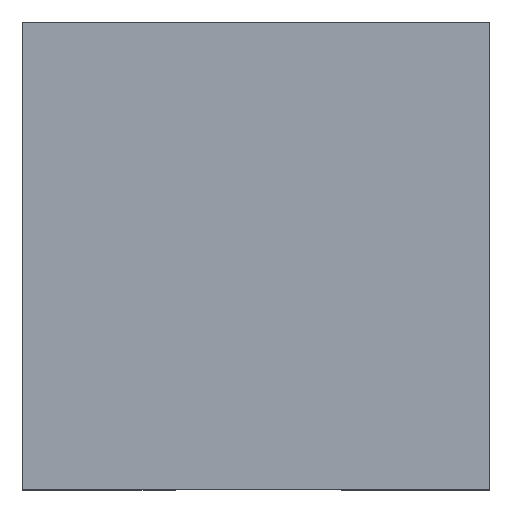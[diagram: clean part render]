
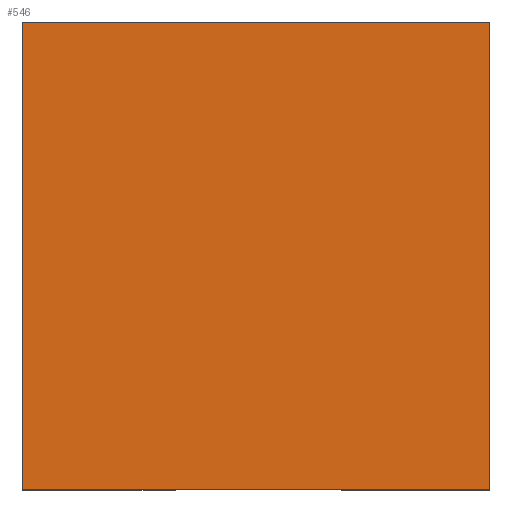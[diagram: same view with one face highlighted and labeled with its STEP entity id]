
A CAD part, top view. The second image highlights one B-rep face of the part: STEP entity #546.
In plain terms, the highlighted planar face has unit normal (0, 0, 1).
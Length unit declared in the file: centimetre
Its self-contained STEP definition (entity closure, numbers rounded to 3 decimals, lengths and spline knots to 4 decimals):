
#8 = CARTESIAN_POINT ( 'NONE',  ( 0., 1000., 1000. ) ) ;
#43 = LINE ( 'NONE', #206, #179 ) ;
#81 = ORIENTED_EDGE ( 'NONE', *, *, #540, .T. ) ;
#87 = CARTESIAN_POINT ( 'NONE',  ( 1000., 1000., 1000. ) ) ;
#162 = CARTESIAN_POINT ( 'NONE',  ( 0., 0., 1000. ) ) ;
#179 = VECTOR ( 'NONE', #300, 100. ) ;
#187 = DIRECTION ( 'NONE',  ( 0., 0., 1. ) ) ;
#206 = CARTESIAN_POINT ( 'NONE',  ( 0., 1000., 1000. ) ) ;
#212 = ORIENTED_EDGE ( 'NONE', *, *, #332, .T. ) ;
#214 = LINE ( 'NONE', #162, #497 ) ;
#251 = ORIENTED_EDGE ( 'NONE', *, *, #388, .T. ) ;
#264 = CARTESIAN_POINT ( 'NONE',  ( 0., 0., 1000. ) ) ;
#300 = DIRECTION ( 'NONE',  ( 0., -1., 0. ) ) ;
#311 = VERTEX_POINT ( 'NONE', #418 ) ;
#332 = EDGE_CURVE ( 'NONE', #352, #359, #214, .T. ) ;
#339 = LINE ( 'NONE', #87, #639 ) ;
#352 = VERTEX_POINT ( 'NONE', #264 ) ;
#359 = VERTEX_POINT ( 'NONE', #504 ) ;
#388 = EDGE_CURVE ( 'NONE', #311, #352, #43, .T. ) ;
#393 = DIRECTION ( 'NONE',  ( 1., 0., 0. ) ) ;
#418 = CARTESIAN_POINT ( 'NONE',  ( 0., 1000., 1000. ) ) ;
#435 = AXIS2_PLACEMENT_3D ( 'NONE', #633, #187, #393 ) ;
#440 = CARTESIAN_POINT ( 'NONE',  ( 1000., 1000., 1000. ) ) ;
#456 = DIRECTION ( 'NONE',  ( -1., 0., 0. ) ) ;
#464 = EDGE_LOOP ( 'NONE', ( #251, #212, #81, #526 ) ) ;
#487 = DIRECTION ( 'NONE',  ( 0., 1., 0. ) ) ;
#497 = VECTOR ( 'NONE', #544, 100. ) ;
#504 = CARTESIAN_POINT ( 'NONE',  ( 1000., 0., 1000. ) ) ;
#522 = VERTEX_POINT ( 'NONE', #440 ) ;
#526 = ORIENTED_EDGE ( 'NONE', *, *, #613, .T. ) ;
#527 = PLANE ( 'NONE',  #435 ) ;
#537 = VECTOR ( 'NONE', #456, 100. ) ;
#540 = EDGE_CURVE ( 'NONE', #359, #522, #339, .T. ) ;
#544 = DIRECTION ( 'NONE',  ( 1., 0., 0. ) ) ;
#546 = ADVANCED_FACE ( 'NONE', ( #625 ), #527, .T. ) ;
#604 = LINE ( 'NONE', #8, #537 ) ;
#613 = EDGE_CURVE ( 'NONE', #522, #311, #604, .T. ) ;
#625 = FACE_OUTER_BOUND ( 'NONE', #464, .T. ) ;
#633 = CARTESIAN_POINT ( 'NONE',  ( 0., 0., 1000. ) ) ;
#639 = VECTOR ( 'NONE', #487, 100. ) ;
